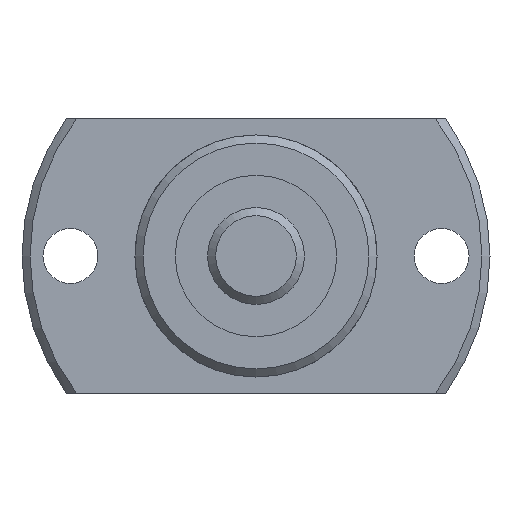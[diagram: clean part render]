
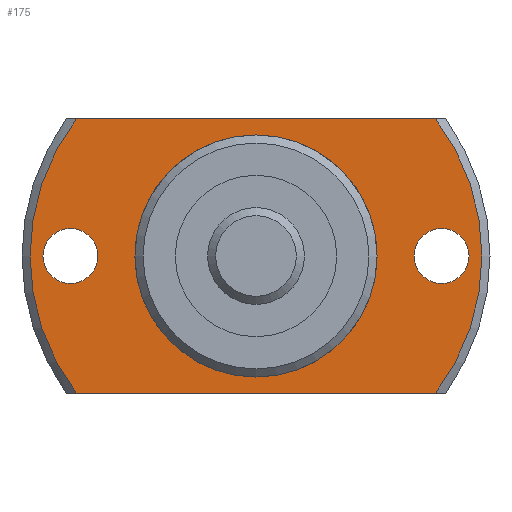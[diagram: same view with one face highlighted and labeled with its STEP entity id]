
A CAD part, left-side view. The second image highlights one B-rep face of the part: STEP entity #175.
In plain terms, the highlighted planar face has unit normal (-1, 0, 0).
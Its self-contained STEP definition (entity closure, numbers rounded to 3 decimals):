
#175 = ADVANCED_FACE( '', ( #379, #380, #381, #382 ), #383, .F. );
#379 = FACE_OUTER_BOUND( '', #641, .T. );
#380 = FACE_BOUND( '', #642, .T. );
#381 = FACE_BOUND( '', #643, .T. );
#382 = FACE_BOUND( '', #644, .T. );
#383 = PLANE( '', #645 );
#641 = EDGE_LOOP( '', ( #966, #967, #968, #969 ) );
#642 = EDGE_LOOP( '', ( #970 ) );
#643 = EDGE_LOOP( '', ( #971 ) );
#644 = EDGE_LOOP( '', ( #972 ) );
#645 = AXIS2_PLACEMENT_3D( '', #973, #974, #975 );
#966 = ORIENTED_EDGE( '', *, *, #1474, .F. );
#967 = ORIENTED_EDGE( '', *, *, #1475, .T. );
#968 = ORIENTED_EDGE( '', *, *, #1476, .F. );
#969 = ORIENTED_EDGE( '', *, *, #1477, .T. );
#970 = ORIENTED_EDGE( '', *, *, #1478, .T. );
#971 = ORIENTED_EDGE( '', *, *, #1479, .T. );
#972 = ORIENTED_EDGE( '', *, *, #1480, .T. );
#973 = CARTESIAN_POINT( '', ( 13., 7.3, 0. ) );
#974 = DIRECTION( '', ( 1., 0., 0. ) );
#975 = DIRECTION( '', ( 0., 0., -1. ) );
#1474 = EDGE_CURVE( '', #1741, #1742, #1743, .T. );
#1475 = EDGE_CURVE( '', #1741, #1744, #1745, .T. );
#1476 = EDGE_CURVE( '', #1746, #1744, #1747, .T. );
#1477 = EDGE_CURVE( '', #1746, #1742, #1748, .T. );
#1478 = EDGE_CURVE( '', #1749, #1749, #1750, .T. );
#1479 = EDGE_CURVE( '', #1751, #1751, #1752, .T. );
#1480 = EDGE_CURVE( '', #1753, #1753, #1754, .T. );
#1741 = VERTEX_POINT( '', #2101 );
#1742 = VERTEX_POINT( '', #2102 );
#1743 = CIRCLE( '', #2103, 14. );
#1744 = VERTEX_POINT( '', #2104 );
#1745 = LINE( '', #2105, #2106 );
#1746 = VERTEX_POINT( '', #2107 );
#1747 = CIRCLE( '', #2108, 14. );
#1748 = LINE( '', #2109, #2110 );
#1749 = VERTEX_POINT( '', #2111 );
#1750 = CIRCLE( '', #2112, 1.7 );
#1751 = VERTEX_POINT( '', #2113 );
#1752 = CIRCLE( '', #2114, 1.7 );
#1753 = VERTEX_POINT( '', #2115 );
#1754 = CIRCLE( '', #2116, 7.3 );
#2101 = CARTESIAN_POINT( '', ( 13., 11.124, -8.5 ) );
#2102 = CARTESIAN_POINT( '', ( 13., 11.124, 8.5 ) );
#2103 = AXIS2_PLACEMENT_3D( '', #2501, #2502, #2503 );
#2104 = CARTESIAN_POINT( '', ( 13., -11.124, -8.5 ) );
#2105 = CARTESIAN_POINT( '', ( 13., 7.3, -8.5 ) );
#2106 = VECTOR( '', #2504, 1000. );
#2107 = CARTESIAN_POINT( '', ( 13., -11.124, 8.5 ) );
#2108 = AXIS2_PLACEMENT_3D( '', #2505, #2506, #2507 );
#2109 = CARTESIAN_POINT( '', ( 13., 7.3, 8.5 ) );
#2110 = VECTOR( '', #2508, 1000. );
#2111 = CARTESIAN_POINT( '', ( 13., 11.5, -1.7 ) );
#2112 = AXIS2_PLACEMENT_3D( '', #2509, #2510, #2511 );
#2113 = CARTESIAN_POINT( '', ( 13., -11.5, -1.7 ) );
#2114 = AXIS2_PLACEMENT_3D( '', #2512, #2513, #2514 );
#2115 = CARTESIAN_POINT( '', ( 13., 0., -7.3 ) );
#2116 = AXIS2_PLACEMENT_3D( '', #2515, #2516, #2517 );
#2501 = CARTESIAN_POINT( '', ( 13., 0., 0. ) );
#2502 = DIRECTION( '', ( 1., 0., 0. ) );
#2503 = DIRECTION( '', ( 0., 0., -1. ) );
#2504 = DIRECTION( '', ( 0., -1., 0. ) );
#2505 = CARTESIAN_POINT( '', ( 13., 0., 0. ) );
#2506 = DIRECTION( '', ( 1., 0., 0. ) );
#2507 = DIRECTION( '', ( 0., 0., -1. ) );
#2508 = DIRECTION( '', ( 0., 1., 0. ) );
#2509 = CARTESIAN_POINT( '', ( 13., 11.5, 0. ) );
#2510 = DIRECTION( '', ( 1., 0., 0. ) );
#2511 = DIRECTION( '', ( 0., 0., -1. ) );
#2512 = CARTESIAN_POINT( '', ( 13., -11.5, 0. ) );
#2513 = DIRECTION( '', ( 1., 0., 0. ) );
#2514 = DIRECTION( '', ( 0., 0., -1. ) );
#2515 = CARTESIAN_POINT( '', ( 13., 0., 0. ) );
#2516 = DIRECTION( '', ( 1., 0., 0. ) );
#2517 = DIRECTION( '', ( 0., 0., -1. ) );
